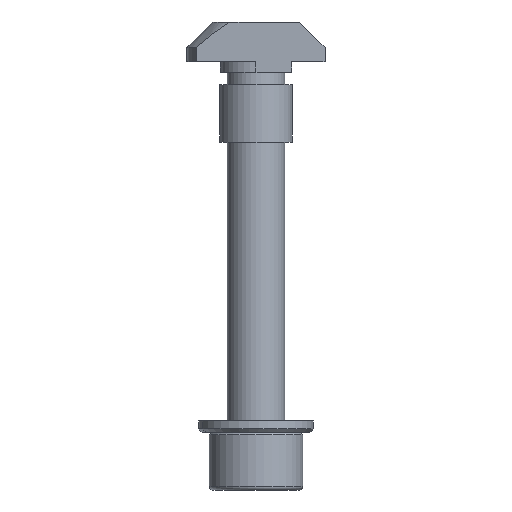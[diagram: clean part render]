
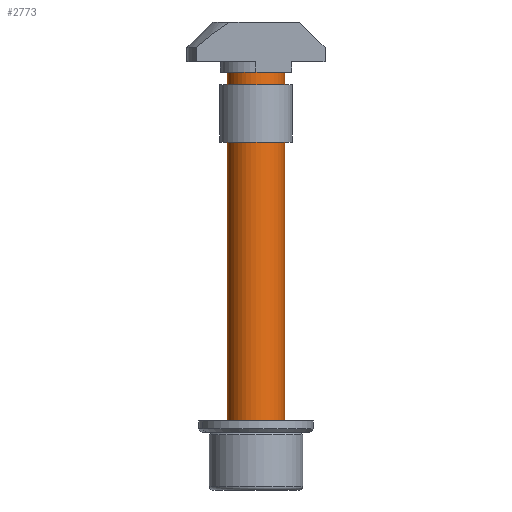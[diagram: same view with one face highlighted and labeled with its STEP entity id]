
A CAD part, front view. The second image highlights one B-rep face of the part: STEP entity #2773.
In plain terms, the highlighted cylindrical face has radius 4 mm (diameter 8 mm), a partial arc.
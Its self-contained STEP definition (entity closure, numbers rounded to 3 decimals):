
#26 = ORIENTED_EDGE ( 'NONE', *, *, #1571, .F. ) ;
#98 = VECTOR ( 'NONE', #440, 1000. ) ;
#179 = CARTESIAN_POINT ( 'NONE',  ( 0., -52., 0. ) ) ;
#218 = CARTESIAN_POINT ( 'NONE',  ( 4., -52.022, 44.355 ) ) ;
#230 = CARTESIAN_POINT ( 'NONE',  ( 4., -52.047, 44.417 ) ) ;
#245 = VERTEX_POINT ( 'NONE', #1877 ) ;
#264 = VECTOR ( 'NONE', #893, 1000. ) ;
#291 = CARTESIAN_POINT ( 'NONE',  ( 0., -52., 54.3 ) ) ;
#440 = DIRECTION ( 'NONE',  ( 0., 0., -1. ) ) ;
#478 = DIRECTION ( 'NONE',  ( -1., 0., 0. ) ) ;
#507 = EDGE_CURVE ( 'NONE', #245, #3814, #2674, .T. ) ;
#514 = EDGE_CURVE ( 'NONE', #3814, #826, #1873, .T. ) ;
#515 = CARTESIAN_POINT ( 'NONE',  ( 4., -52.032, 44.361 ) ) ;
#530 = CARTESIAN_POINT ( 'NONE',  ( 4., -52.042, 44.427 ) ) ;
#591 = DIRECTION ( 'NONE',  ( 1., 0., 0. ) ) ;
#691 = ORIENTED_EDGE ( 'NONE', *, *, #3506, .F. ) ;
#744 = CARTESIAN_POINT ( 'NONE',  ( 4., -52., 55. ) ) ;
#808 = CARTESIAN_POINT ( 'NONE',  ( -4., -52., 54.3 ) ) ;
#822 = CARTESIAN_POINT ( 'NONE',  ( 4., -52.039, 44.369 ) ) ;
#826 = VERTEX_POINT ( 'NONE', #1108 ) ;
#838 = CARTESIAN_POINT ( 'NONE',  ( 4., -52.035, 44.436 ) ) ;
#893 = DIRECTION ( 'NONE',  ( 0., 0., -1. ) ) ;
#910 = EDGE_LOOP ( 'NONE', ( #26, #1623, #2652, #2845, #691, #2340 ) ) ;
#1103 = VERTEX_POINT ( 'NONE', #2035 ) ;
#1108 = CARTESIAN_POINT ( 'NONE',  ( -4., -52., 0. ) ) ;
#1130 = CARTESIAN_POINT ( 'NONE',  ( 4., -52.046, 44.379 ) ) ;
#1141 = CARTESIAN_POINT ( 'NONE',  ( 4., -52.026, 44.443 ) ) ;
#1407 = CARTESIAN_POINT ( 'NONE',  ( 4., -52., 44.35 ) ) ;
#1423 = CARTESIAN_POINT ( 'NONE',  ( 4., -52.049, 44.389 ) ) ;
#1438 = CARTESIAN_POINT ( 'NONE',  ( 4., -52.016, 44.448 ) ) ;
#1446 = VERTEX_POINT ( 'NONE', #2574 ) ;
#1470 = FACE_OUTER_BOUND ( 'NONE', #910, .T. ) ;
#1526 = CARTESIAN_POINT ( 'NONE',  ( 4., -52., 55. ) ) ;
#1571 = EDGE_CURVE ( 'NONE', #245, #1103, #1829, .T. ) ;
#1623 = ORIENTED_EDGE ( 'NONE', *, *, #507, .T. ) ;
#1631 = VECTOR ( 'NONE', #3626, 1000. ) ;
#1723 = CARTESIAN_POINT ( 'NONE',  ( 4., -52.008, 44.35 ) ) ;
#1736 = EDGE_CURVE ( 'NONE', #3418, #1103, #1792, .T. ) ;
#1737 = CARTESIAN_POINT ( 'NONE',  ( 4., -52.05, 44.401 ) ) ;
#1747 = CARTESIAN_POINT ( 'NONE',  ( 4., -52.007, 44.45 ) ) ;
#1770 = AXIS2_PLACEMENT_3D ( 'NONE', #2180, #1874, #2776 ) ;
#1792 = B_SPLINE_CURVE_WITH_KNOTS ( 'NONE', 3,
 ( #1407, #3518, #1723, #3801, #2026, #218, #2325, #515, #2635, #822, #2926, #1130, #3231, #1423, #3530, #1737, #3816, #2039, #230, #2339, #530, #2644, #838, #2940, #1141, #3247, #1438, #3543, #1747, #3834, #2053 ),
 .UNSPECIFIED., .F., .F.,
 ( 4, 3, 3, 3, 3, 3, 3, 3, 3, 3, 4 ),
 ( 0., 0., 0., 0., 0., 0., 0., 0., 0., 0., 0. ),
 .UNSPECIFIED. ) ;
#1829 = LINE ( 'NONE', #1526, #1631 ) ;
#1833 = CIRCLE ( 'NONE', #2601, 4. ) ;
#1873 = LINE ( 'NONE', #3880, #264 ) ;
#1874 = DIRECTION ( 'NONE',  ( 0., 0., -1. ) ) ;
#1877 = CARTESIAN_POINT ( 'NONE',  ( 4., -52., 54.3 ) ) ;
#1922 = CARTESIAN_POINT ( 'NONE',  ( 4., -52., 44.35 ) ) ;
#2026 = CARTESIAN_POINT ( 'NONE',  ( 4., -52.017, 44.353 ) ) ;
#2035 = CARTESIAN_POINT ( 'NONE',  ( 4., -52., 44.45 ) ) ;
#2039 = CARTESIAN_POINT ( 'NONE',  ( 4., -52.049, 44.412 ) ) ;
#2053 = CARTESIAN_POINT ( 'NONE',  ( 4., -52., 44.45 ) ) ;
#2180 = CARTESIAN_POINT ( 'NONE',  ( 0., -52., 55. ) ) ;
#2288 = DIRECTION ( 'NONE',  ( 0., 0., -1. ) ) ;
#2325 = CARTESIAN_POINT ( 'NONE',  ( 4., -52.027, 44.358 ) ) ;
#2339 = CARTESIAN_POINT ( 'NONE',  ( 4., -52.045, 44.422 ) ) ;
#2340 = ORIENTED_EDGE ( 'NONE', *, *, #1736, .T. ) ;
#2398 = DIRECTION ( 'NONE',  ( 0., 0., -1. ) ) ;
#2449 = AXIS2_PLACEMENT_3D ( 'NONE', #291, #2398, #591 ) ;
#2574 = CARTESIAN_POINT ( 'NONE',  ( 4., -52., 0. ) ) ;
#2593 = LINE ( 'NONE', #744, #98 ) ;
#2601 = AXIS2_PLACEMENT_3D ( 'NONE', #179, #2288, #478 ) ;
#2635 = CARTESIAN_POINT ( 'NONE',  ( 4., -52.036, 44.365 ) ) ;
#2644 = CARTESIAN_POINT ( 'NONE',  ( 4., -52.039, 44.432 ) ) ;
#2652 = ORIENTED_EDGE ( 'NONE', *, *, #514, .T. ) ;
#2674 = CIRCLE ( 'NONE', #2449, 4. ) ;
#2773 = ADVANCED_FACE ( 'NONE', ( #1470 ), #2974, .T. ) ;
#2776 = DIRECTION ( 'NONE',  ( -1., 0., 0. ) ) ;
#2845 = ORIENTED_EDGE ( 'NONE', *, *, #3593, .F. ) ;
#2926 = CARTESIAN_POINT ( 'NONE',  ( 4., -52.043, 44.374 ) ) ;
#2940 = CARTESIAN_POINT ( 'NONE',  ( 4., -52.031, 44.44 ) ) ;
#2974 = CYLINDRICAL_SURFACE ( 'NONE', #1770, 4. ) ;
#3231 = CARTESIAN_POINT ( 'NONE',  ( 4., -52.047, 44.384 ) ) ;
#3247 = CARTESIAN_POINT ( 'NONE',  ( 4., -52.021, 44.446 ) ) ;
#3418 = VERTEX_POINT ( 'NONE', #1922 ) ;
#3506 = EDGE_CURVE ( 'NONE', #3418, #1446, #2593, .T. ) ;
#3518 = CARTESIAN_POINT ( 'NONE',  ( 4., -52.004, 44.35 ) ) ;
#3530 = CARTESIAN_POINT ( 'NONE',  ( 4., -52.05, 44.395 ) ) ;
#3543 = CARTESIAN_POINT ( 'NONE',  ( 4., -52.01, 44.449 ) ) ;
#3593 = EDGE_CURVE ( 'NONE', #1446, #826, #1833, .T. ) ;
#3626 = DIRECTION ( 'NONE',  ( 0., 0., -1. ) ) ;
#3801 = CARTESIAN_POINT ( 'NONE',  ( 4., -52.011, 44.351 ) ) ;
#3814 = VERTEX_POINT ( 'NONE', #808 ) ;
#3816 = CARTESIAN_POINT ( 'NONE',  ( 4., -52.05, 44.406 ) ) ;
#3834 = CARTESIAN_POINT ( 'NONE',  ( 4., -52.004, 44.45 ) ) ;
#3880 = CARTESIAN_POINT ( 'NONE',  ( -4., -52., 55. ) ) ;
